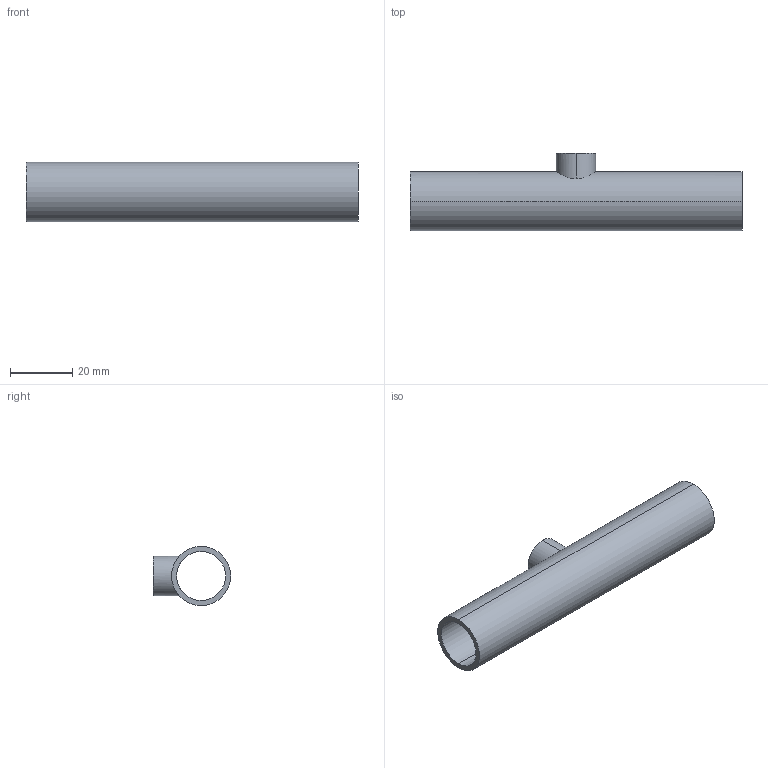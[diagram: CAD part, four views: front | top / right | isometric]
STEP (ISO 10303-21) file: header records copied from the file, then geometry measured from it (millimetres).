
FILE_DESCRIPTION (( 'STEP AP214' ), '1' );
FILE_NAME ('TEG7RS6L.75x.5-...STEP', '2016-05-24T07:56:00', ( 'eran' ), ( '' ), 'SwSTEP 2.0', 'SolidWorks 2016', '' );
FILE_SCHEMA (( 'AUTOMOTIVE_DESIGN' ));
Length unit declared in the file: millimetre
Products named in the file (1): TEG7RS6L.75x.5-..
Bounding box: 107 x 24.93 x 19.05 mm (x, y, z)
Volume: 9918.7 mm3; surface area: 12253 mm2
Topology: 1 solids, 1 shells, 11 faces, 24 edges, 16 vertices
Faces by surface type: cylinder 8, plane 3
Entity records: 492 total; most frequent: CARTESIAN_POINT 200, DIRECTION 56, ORIENTED_EDGE 48, AXIS2_PLACEMENT_3D 24, EDGE_CURVE 24, EDGE_LOOP 16, VERTEX_POINT 16, CIRCLE 12
